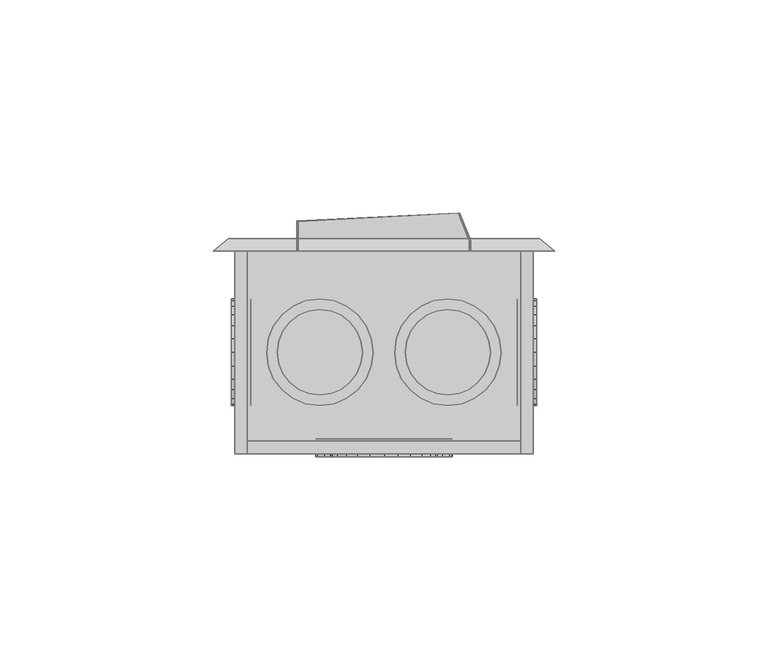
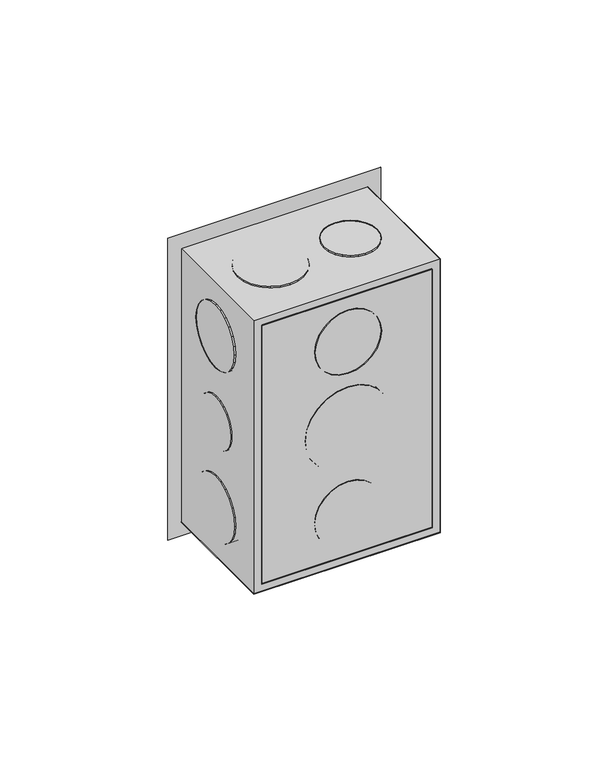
"""IFC4 building model written with IfcOpenShell, lengths in millimetres: proxy geometry,  210509 :  210509."""

from ifc_helpers import new_model, si_unit, origin, place, context, project, spatial, triangles, source, transform, mapped, element, save


def generic_models_14680dae(model_context):
    return source(origin(), model_context, "Body", "Tessellation", [
        triangles([(25216.400354, 15395.8997864, 1254.3000378), (25219.4001709, 15395.8997864, 1148.7000154), (25216.400354, 15395.8997864, 1145.6999805), (25219.4001709, 15395.8997864, 1251.2999302), (25286.4007324, 15395.8997864, 1254.3000378), (25283.4009155, 15395.8997864, 1251.2999302), (25286.4007324, 15395.8997864, 1145.6999805), (25283.4009155, 15395.8997864, 1148.7000154), (25219.4001709, 15348.4003601, 1251.2999302), (25219.4001709, 15348.4003601, 1148.7000154), (25286.4007324, 15348.4003601, 1254.3000378), (25286.4007324, 15348.4003601, 1145.6999805), (25283.4009155, 15348.4003601, 1251.2999302), (25216.400354, 15348.4003601, 1145.6999805), (25283.4009155, 15348.4003601, 1148.7000154), (25216.400354, 15348.4003601, 1254.3000378), (25219.4001709, 15351.400177, 1251.2999302), (25283.4009155, 15351.400177, 1148.7000154), (25219.4001709, 15351.400177, 1148.7000154), (25283.4009155, 15351.400177, 1251.2999302), (25243.4010315, 15347.7004028, 1186.0999855), (25237.4990662, 15347.7004028, 1191.9999887), (25240.0989075, 15347.7004028, 1188.6999722), (25247.2007996, 15347.7004028, 1184.5000105), (25235.8991638, 15347.7004028, 1195.8999687), (25251.4005432, 15347.7004028, 1183.9999683), (25235.3991943, 15347.7004028, 1200.0000092), (25255.500293, 15347.7004028, 1184.5000105), (25235.8991638, 15347.7004028, 1204.0999769), (25259.4000549, 15347.7004028, 1186.0999855), (25237.4990662, 15347.7004028, 1208.0000296), (25262.6998535, 15347.7004028, 1188.6999722), (25240.0989075, 15347.7004028, 1211.2999735), (25265.1997009, 15347.7004028, 1191.9999887), (25243.4010315, 15347.7004028, 1213.9000328), (25266.7996033, 15347.7004028, 1195.8999687), (25247.2007996, 15347.7004028, 1215.5000078), (25267.3995667, 15347.7004028, 1200.0000092), (25251.4005432, 15347.7004028, 1215.9999773), (25266.7996033, 15347.7004028, 1204.0999769), (25255.500293, 15347.7004028, 1215.5000078), (25265.1997009, 15347.7004028, 1208.0000296), (25259.4000549, 15347.7004028, 1213.9000328), (25262.6998535, 15347.7004028, 1211.2999735), (25247.2007996, 15351.9001465, 1215.5000078), (25251.4005432, 15351.9001465, 1215.9999773), (25243.4010315, 15351.9001465, 1213.9000328), (25240.0989075, 15351.9001465, 1211.2999735), (25237.4990662, 15351.9001465, 1208.0000296), (25235.8991638, 15351.9001465, 1204.0999769), (25235.3991943, 15351.9001465, 1200.0000092), (25235.8991638, 15351.9001465, 1195.8999687), (25237.4990662, 15351.9001465, 1191.9999887), (25240.0989075, 15351.9001465, 1188.6999722), (25243.4010315, 15351.9001465, 1186.0999855), (25247.2007996, 15351.9001465, 1184.5000105), (25251.4005432, 15351.9001465, 1183.9999683), (25255.500293, 15351.9001465, 1184.5000105), (25259.4000549, 15351.9001465, 1186.0999855), (25262.6998535, 15351.9001465, 1188.6999722), (25265.1997009, 15351.9001465, 1191.9999887), (25266.7996033, 15351.9001465, 1195.8999687), (25267.3995667, 15351.9001465, 1200.0000092), (25266.7996033, 15351.9001465, 1204.0999769), (25265.1997009, 15351.9001465, 1208.0000296), (25262.6998535, 15351.9001465, 1211.2999735), (25259.4000549, 15351.9001465, 1213.9000328), (25255.500293, 15351.9001465, 1215.5000078), (25240.4988831, 15351.9001465, 1227.8000565), (25245.1009277, 15351.9001465, 1223.2000465), (25242.5010864, 15351.9001465, 1225.2000698), (25239.2989563, 15351.9001465, 1230.8000187), (25248.1007446, 15351.9001465, 1221.8999805), (25238.8989807, 15351.9001465, 1233.9999687), (25251.4005432, 15351.9001465, 1221.500005), (25239.2989563, 15351.9001465, 1237.2000641), (25254.6003479, 15351.9001465, 1221.8999805), (25240.4988831, 15351.9001465, 1240.3000202), (25257.6001648, 15351.9001465, 1223.2000465), (25242.5010864, 15351.9001465, 1242.800013), (25260.2000061, 15351.9001465, 1225.2000698), (25262.199884, 15351.9001465, 1227.8000565), (25245.1009277, 15351.9001465, 1244.8000362), (25248.1007446, 15351.9001465, 1246.0999569), (25263.3998108, 15351.9001465, 1230.8000187), (25251.4005432, 15351.9001465, 1246.4999325), (25263.8997803, 15351.9001465, 1233.9999687), (25254.6003479, 15351.9001465, 1246.0999569), (25263.3998108, 15351.9001465, 1237.2000641), (25262.199884, 15351.9001465, 1240.3000202), (25257.6001648, 15351.9001465, 1244.8000362), (25260.2000061, 15351.9001465, 1242.800013), (25263.3998108, 15347.7004028, 1230.8000187), (25262.199884, 15347.7004028, 1227.8000565), (25260.2000061, 15347.7004028, 1225.2000698), (25257.6001648, 15347.7004028, 1223.2000465), (25254.6003479, 15347.7004028, 1221.8999805), (25251.4005432, 15347.7004028, 1221.500005), (25248.1007446, 15347.7004028, 1221.8999805), (25245.1009277, 15347.7004028, 1223.2000465), (25242.5010864, 15347.7004028, 1225.2000698), (25240.4988831, 15347.7004028, 1227.8000565), (25239.2989563, 15347.7004028, 1230.8000187), (25238.8989807, 15347.7004028, 1233.9999687), (25239.2989563, 15347.7004028, 1237.2000641), (25240.4988831, 15347.7004028, 1240.3000202), (25242.5010864, 15347.7004028, 1242.800013), (25245.1009277, 15347.7004028, 1244.8000362), (25248.1007446, 15347.7004028, 1246.0999569), (25251.4005432, 15347.7004028, 1246.4999325), (25254.6003479, 15347.7004028, 1246.0999569), (25257.6001648, 15347.7004028, 1244.8000362), (25260.2000061, 15347.7004028, 1242.800013), (25262.199884, 15347.7004028, 1240.3000202), (25263.3998108, 15347.7004028, 1237.2000641), (25263.8997803, 15347.7004028, 1233.9999687), (25245.1009277, 15347.7004028, 1155.1999821), (25240.4988831, 15347.7004028, 1159.6999981), (25242.5010864, 15347.7004028, 1157.2000053), (25248.1007446, 15347.7004028, 1153.8999887), (25239.2989563, 15347.7004028, 1162.8000269), (25251.4005432, 15347.7004028, 1153.5000132), (25238.8989807, 15347.7004028, 1165.9999769), (25254.6003479, 15347.7004028, 1153.8999887), (25239.2989563, 15347.7004028, 1169.1999996), (25257.6001648, 15347.7004028, 1155.1999821), (25240.4988831, 15347.7004028, 1172.2000345), (25260.2000061, 15347.7004028, 1157.2000053), (25242.5010864, 15347.7004028, 1174.8000212), (25262.199884, 15347.7004028, 1159.6999981), (25245.1009277, 15347.7004028, 1176.7999718), (25263.3998108, 15347.7004028, 1162.8000269), (25248.1007446, 15347.7004028, 1178.0999651), (25251.4005432, 15347.7004028, 1178.5000134), (25263.8997803, 15347.7004028, 1165.9999769), (25263.3998108, 15347.7004028, 1169.1999996), (25254.6003479, 15347.7004028, 1178.0999651), (25262.199884, 15347.7004028, 1172.2000345), (25257.6001648, 15347.7004028, 1176.7999718), (25260.2000061, 15347.7004028, 1174.8000212), (25248.1007446, 15351.9001465, 1178.0999651), (25251.4005432, 15351.9001465, 1178.5000134), (25245.1009277, 15351.9001465, 1176.7999718), (25242.5010864, 15351.9001465, 1174.8000212), (25240.4988831, 15351.9001465, 1172.2000345), (25239.2989563, 15351.9001465, 1169.1999996), (25238.8989807, 15351.9001465, 1165.9999769), (25239.2989563, 15351.9001465, 1162.8000269), (25240.4988831, 15351.9001465, 1159.6999981), (25242.5010864, 15351.9001465, 1157.2000053), (25245.1009277, 15351.9001465, 1155.1999821), (25248.1007446, 15351.9001465, 1153.8999887), (25251.4005432, 15351.9001465, 1153.5000132), (25254.6003479, 15351.9001465, 1153.8999887), (25257.6001648, 15351.9001465, 1155.1999821), (25260.2000061, 15351.9001465, 1157.2000053), (25262.199884, 15351.9001465, 1159.6999981), (25263.3998108, 15351.9001465, 1162.8000269), (25263.8997803, 15351.9001465, 1165.9999769), (25263.3998108, 15351.9001465, 1169.1999996), (25262.199884, 15351.9001465, 1172.2000345), (25260.2000061, 15351.9001465, 1174.8000212), (25257.6001648, 15351.9001465, 1176.7999718), (25254.6003479, 15351.9001465, 1178.0999651), (25215.6004028, 15363.4994385, 1195.0000237), (25215.6004028, 15367.2003754, 1191.3000315), (25215.6004028, 15365.1005035, 1192.9000065), (25215.6004028, 15362.4994995, 1197.4000225), (25215.6004028, 15369.6002289, 1190.3000198), (25215.6004028, 15362.1995178, 1200.0000092), (25215.6004028, 15372.2000702, 1189.9999655), (25215.6004028, 15362.4994995, 1202.5999958), (25215.6004028, 15374.7999115, 1190.3000198), (25215.6004028, 15363.4994385, 1204.9999947), (25215.6004028, 15377.199765, 1191.3000315), (25215.6004028, 15365.1005035, 1207.1000118), (25215.6004028, 15379.2996368, 1192.9000065), (25215.6004028, 15367.2003754, 1208.6999868), (25215.6004028, 15380.8995392, 1195.0000237), (25215.6004028, 15369.6002289, 1209.6999985), (25215.6004028, 15381.8994781, 1197.4000225), (25215.6004028, 15382.1994598, 1200.0000092), (25215.6004028, 15372.2000702, 1209.9999802), (25215.6004028, 15374.7999115, 1209.6999985), (25215.6004028, 15381.8994781, 1202.5999958), (25215.6004028, 15377.199765, 1208.6999868), (25215.6004028, 15380.8995392, 1204.9999947), (25215.6004028, 15379.2996368, 1207.1000118), (25220.2001221, 15369.6002289, 1209.6999985), (25220.2001221, 15372.2000702, 1209.9999802), (25220.2001221, 15374.7999115, 1209.6999985), (25220.2001221, 15377.199765, 1208.6999868), (25220.2001221, 15379.2996368, 1207.1000118), (25220.2001221, 15380.8995392, 1204.9999947), (25220.2001221, 15381.8994781, 1202.5999958), (25220.2001221, 15382.1994598, 1200.0000092), (25220.2001221, 15381.8994781, 1197.4000225), (25220.2001221, 15380.8995392, 1195.0000237), (25220.2001221, 15379.2996368, 1192.9000065), (25220.2001221, 15377.199765, 1191.3000315), (25220.2001221, 15374.7999115, 1190.3000198), (25220.2001221, 15372.2000702, 1189.9999655), (25220.2001221, 15369.6002289, 1190.3000198), (25220.2001221, 15367.2003754, 1191.3000315), (25220.2001221, 15365.1005035, 1192.9000065), (25220.2001221, 15363.4994385, 1195.0000237), (25220.2001221, 15362.4994995, 1197.4000225), (25220.2001221, 15362.1995178, 1200.0000092), (25220.2001221, 15362.4994995, 1202.5999958), (25220.2001221, 15363.4994385, 1204.9999947), (25220.2001221, 15365.1005035, 1207.1000118), (25220.2001221, 15367.2003754, 1208.6999868), (25220.2001221, 15365.9004547, 1223.2000465), (25220.2001221, 15361.3995667, 1227.8000565), (25220.2001221, 15363.3994446, 1225.2000698), (25220.2001221, 15369.0002655, 1221.8999805), (25220.2001221, 15360.099646, 1230.8000187), (25220.2001221, 15359.6996704, 1233.9999687), (25220.2001221, 15372.2000702, 1221.500005), (25220.2001221, 15375.3998749, 1221.8999805), (25220.2001221, 15360.099646, 1237.2000641), (25220.2001221, 15361.3995667, 1240.3000202), (25220.2001221, 15378.3996918, 1223.2000465), (25220.2001221, 15380.9995331, 1225.2000698), (25220.2001221, 15363.3994446, 1242.800013), (25220.2001221, 15383.0005737, 1227.8000565), (25220.2001221, 15365.9004547, 1244.8000362), (25220.2001221, 15384.3004944, 1230.8000187), (25220.2001221, 15369.0002655, 1246.0999569), (25220.2001221, 15384.70047, 1233.9999687), (25220.2001221, 15372.2000702, 1246.4999325), (25220.2001221, 15384.3004944, 1237.2000641), (25220.2001221, 15375.3998749, 1246.0999569), (25220.2001221, 15383.0005737, 1240.3000202), (25220.2001221, 15378.3996918, 1244.8000362), (25220.2001221, 15380.9995331, 1242.800013), (25215.6004028, 15372.2000702, 1221.500005), (25215.6004028, 15369.0002655, 1221.8999805), (25215.6004028, 15375.3998749, 1221.8999805), (25215.6004028, 15378.3996918, 1223.2000465), (25215.6004028, 15380.9995331, 1225.2000698), (25215.6004028, 15383.0005737, 1227.8000565), (25215.6004028, 15384.3004944, 1230.8000187), (25215.6004028, 15384.70047, 1233.9999687), (25215.6004028, 15384.3004944, 1237.2000641), (25215.6004028, 15383.0005737, 1240.3000202), (25215.6004028, 15380.9995331, 1242.800013), (25215.6004028, 15378.3996918, 1244.8000362), (25215.6004028, 15375.3998749, 1246.0999569), (25215.6004028, 15372.2000702, 1246.4999325), (25215.6004028, 15369.0002655, 1246.0999569), (25215.6004028, 15365.9004547, 1244.8000362), (25215.6004028, 15363.3994446, 1242.800013), (25215.6004028, 15361.3995667, 1240.3000202), (25215.6004028, 15360.099646, 1237.2000641), (25215.6004028, 15359.6996704, 1233.9999687), (25215.6004028, 15360.099646, 1230.8000187), (25215.6004028, 15361.3995667, 1227.8000565), (25215.6004028, 15363.3994446, 1225.2000698), (25215.6004028, 15365.9004547, 1223.2000465), (25215.6004028, 15361.3995667, 1159.6999981), (25215.6004028, 15365.9004547, 1155.1999821), (25215.6004028, 15363.3994446, 1157.2000053), (25215.6004028, 15360.099646, 1162.8000269), (25215.6004028, 15369.0002655, 1153.8999887), (25215.6004028, 15359.6996704, 1165.9999769), (25215.6004028, 15372.2000702, 1153.5000132), (25215.6004028, 15360.099646, 1169.1999996), (25215.6004028, 15375.3998749, 1153.8999887), (25215.6004028, 15361.3995667, 1172.2000345), (25215.6004028, 15378.3996918, 1155.1999821), (25215.6004028, 15363.3994446, 1174.8000212), (25215.6004028, 15380.9995331, 1157.2000053), (25215.6004028, 15365.9004547, 1176.7999718), (25215.6004028, 15383.0005737, 1159.6999981), (25215.6004028, 15369.0002655, 1178.0999651), (25215.6004028, 15384.3004944, 1162.8000269), (25215.6004028, 15372.2000702, 1178.5000134), (25215.6004028, 15384.70047, 1165.9999769), (25215.6004028, 15375.3998749, 1178.0999651), (25215.6004028, 15384.3004944, 1169.1999996), (25215.6004028, 15378.3996918, 1176.7999718), (25215.6004028, 15383.0005737, 1172.2000345), (25215.6004028, 15380.9995331, 1174.8000212), (25220.2001221, 15369.0002655, 1178.0999651), (25220.2001221, 15372.2000702, 1178.5000134), (25220.2001221, 15375.3998749, 1178.0999651), (25220.2001221, 15378.3996918, 1176.7999718), (25220.2001221, 15380.9995331, 1174.8000212), (25220.2001221, 15383.0005737, 1172.2000345), (25220.2001221, 15384.3004944, 1169.1999996), (25220.2001221, 15384.70047, 1165.9999769), (25220.2001221, 15384.3004944, 1162.8000269), (25220.2001221, 15383.0005737, 1159.6999981), (25220.2001221, 15380.9995331, 1157.2000053), (25220.2001221, 15378.3996918, 1155.1999821), (25220.2001221, 15375.3998749, 1153.8999887), (25220.2001221, 15372.2000702, 1153.5000132), (25220.2001221, 15369.0002655, 1153.8999887), (25220.2001221, 15365.9004547, 1155.1999821), (25220.2001221, 15363.3994446, 1157.2000053), (25220.2001221, 15361.3995667, 1159.6999981), (25220.2001221, 15360.099646, 1162.8000269), (25220.2001221, 15359.6996704, 1165.9999769), (25220.2001221, 15360.099646, 1169.1999996), (25220.2001221, 15361.3995667, 1172.2000345), (25220.2001221, 15363.3994446, 1174.8000212), (25220.2001221, 15365.9004547, 1176.7999718), (25287.2006836, 15367.2003754, 1191.3000315), (25287.2006836, 15363.4994385, 1195.0000237), (25287.2006836, 15365.1005035, 1192.9000065), (25287.2006836, 15362.4994995, 1197.4000225), (25287.2006836, 15369.6002289, 1190.3000198), (25287.2006836, 15362.1995178, 1200.0000092), (25287.2006836, 15372.2000702, 1189.9999655), (25287.2006836, 15374.7999115, 1190.3000198), (25287.2006836, 15362.4994995, 1202.5999958), (25287.2006836, 15363.4994385, 1204.9999947), (25287.2006836, 15377.199765, 1191.3000315), (25287.2006836, 15365.1005035, 1207.1000118), (25287.2006836, 15379.2996368, 1192.9000065), (25287.2006836, 15380.8995392, 1195.0000237), (25287.2006836, 15367.2003754, 1208.6999868), (25287.2006836, 15381.8994781, 1197.4000225), (25287.2006836, 15369.6002289, 1209.6999985), (25287.2006836, 15382.1994598, 1200.0000092), (25287.2006836, 15372.2000702, 1209.9999802), (25287.2006836, 15381.8994781, 1202.5999958), (25287.2006836, 15374.7999115, 1209.6999985), (25287.2006836, 15377.199765, 1208.6999868), (25287.2006836, 15380.8995392, 1204.9999947), (25287.2006836, 15379.2996368, 1207.1000118), (25282.6009644, 15369.6002289, 1190.3000198), (25282.6009644, 15367.2003754, 1191.3000315), (25282.6009644, 15372.2000702, 1189.9999655), (25282.6009644, 15374.7999115, 1190.3000198), (25282.6009644, 15377.199765, 1191.3000315), (25282.6009644, 15379.2996368, 1192.9000065), (25282.6009644, 15380.8995392, 1195.0000237), (25282.6009644, 15381.8994781, 1197.4000225), (25282.6009644, 15382.1994598, 1200.0000092), (25282.6009644, 15381.8994781, 1202.5999958), (25282.6009644, 15380.8995392, 1204.9999947), (25282.6009644, 15379.2996368, 1207.1000118), (25282.6009644, 15377.199765, 1208.6999868), (25282.6009644, 15374.7999115, 1209.6999985), (25282.6009644, 15372.2000702, 1209.9999802), (25282.6009644, 15369.6002289, 1209.6999985), (25282.6009644, 15367.2003754, 1208.6999868), (25282.6009644, 15365.1005035, 1207.1000118), (25282.6009644, 15363.4994385, 1204.9999947), (25282.6009644, 15362.4994995, 1202.5999958), (25282.6009644, 15362.1995178, 1200.0000092), (25282.6009644, 15362.4994995, 1197.4000225), (25282.6009644, 15363.4994385, 1195.0000237), (25282.6009644, 15365.1005035, 1192.9000065), (25282.6009644, 15361.3995667, 1159.6999981), (25282.6009644, 15365.9004547, 1155.1999821), (25282.6009644, 15363.3994446, 1157.2000053), (25282.6009644, 15360.099646, 1162.8000269), (25282.6009644, 15369.0002655, 1153.8999887), (25282.6009644, 15359.6996704, 1165.9999769), (25282.6009644, 15372.2000702, 1153.5000132), (25282.6009644, 15360.099646, 1169.1999996), (25282.6009644, 15375.3998749, 1153.8999887), (25282.6009644, 15361.3995667, 1172.2000345), (25282.6009644, 15378.3996918, 1155.1999821), (25282.6009644, 15363.3994446, 1174.8000212), (25282.6009644, 15380.9995331, 1157.2000053), (25282.6009644, 15365.9004547, 1176.7999718), (25282.6009644, 15383.0005737, 1159.6999981), (25282.6009644, 15369.0002655, 1178.0999651), (25282.6009644, 15384.3004944, 1162.8000269), (25282.6009644, 15372.2000702, 1178.5000134), (25282.6009644, 15384.70047, 1165.9999769), (25282.6009644, 15375.3998749, 1178.0999651), (25282.6009644, 15384.3004944, 1169.1999996), (25282.6009644, 15378.3996918, 1176.7999718), (25282.6009644, 15383.0005737, 1172.2000345), (25282.6009644, 15380.9995331, 1174.8000212), (25287.2006836, 15369.0002655, 1178.0999651), (25287.2006836, 15372.2000702, 1178.5000134), (25287.2006836, 15375.3998749, 1178.0999651), (25287.2006836, 15378.3996918, 1176.7999718), (25287.2006836, 15380.9995331, 1174.8000212), (25287.2006836, 15383.0005737, 1172.2000345), (25287.2006836, 15384.3004944, 1169.1999996), (25287.2006836, 15384.70047, 1165.9999769), (25287.2006836, 15384.3004944, 1162.8000269), (25287.2006836, 15383.0005737, 1159.6999981), (25287.2006836, 15380.9995331, 1157.2000053), (25287.2006836, 15378.3996918, 1155.1999821), (25287.2006836, 15375.3998749, 1153.8999887), (25287.2006836, 15372.2000702, 1153.5000132), (25287.2006836, 15369.0002655, 1153.8999887), (25287.2006836, 15365.9004547, 1155.1999821), (25287.2006836, 15363.3994446, 1157.2000053), (25287.2006836, 15361.3995667, 1159.6999981), (25287.2006836, 15360.099646, 1162.8000269), (25287.2006836, 15359.6996704, 1165.9999769), (25287.2006836, 15360.099646, 1169.1999996), (25287.2006836, 15361.3995667, 1172.2000345), (25287.2006836, 15363.3994446, 1174.8000212), (25287.2006836, 15365.9004547, 1176.7999718), (25287.2006836, 15365.9004547, 1223.2000465), (25287.2006836, 15361.3995667, 1227.8000565), (25287.2006836, 15363.3994446, 1225.2000698), (25287.2006836, 15369.0002655, 1221.8999805), (25287.2006836, 15360.099646, 1230.8000187), (25287.2006836, 15359.6996704, 1233.9999687), (25287.2006836, 15372.2000702, 1221.500005), (25287.2006836, 15375.3998749, 1221.8999805), (25287.2006836, 15360.099646, 1237.2000641), (25287.2006836, 15361.3995667, 1240.3000202), (25287.2006836, 15378.3996918, 1223.2000465), (25287.2006836, 15380.9995331, 1225.2000698), (25287.2006836, 15363.3994446, 1242.800013), (25287.2006836, 15383.0005737, 1227.8000565), (25287.2006836, 15365.9004547, 1244.8000362), (25287.2006836, 15384.3004944, 1230.8000187), (25287.2006836, 15369.0002655, 1246.0999569), (25287.2006836, 15384.70047, 1233.9999687), (25287.2006836, 15372.2000702, 1246.4999325), (25287.2006836, 15384.3004944, 1237.2000641), (25287.2006836, 15375.3998749, 1246.0999569), (25287.2006836, 15383.0005737, 1240.3000202), (25287.2006836, 15378.3996918, 1244.8000362), (25287.2006836, 15380.9995331, 1242.800013), (25282.6009644, 15372.2000702, 1221.500005), (25282.6009644, 15369.0002655, 1221.8999805), (25282.6009644, 15375.3998749, 1221.8999805), (25282.6009644, 15378.3996918, 1223.2000465), (25282.6009644, 15380.9995331, 1225.2000698), (25282.6009644, 15383.0005737, 1227.8000565), (25282.6009644, 15384.3004944, 1230.8000187), (25282.6009644, 15384.70047, 1233.9999687), (25282.6009644, 15384.3004944, 1237.2000641), (25282.6009644, 15383.0005737, 1240.3000202), (25282.6009644, 15380.9995331, 1242.800013), (25282.6009644, 15378.3996918, 1244.8000362), (25282.6009644, 15375.3998749, 1246.0999569), (25282.6009644, 15372.2000702, 1246.4999325), (25282.6009644, 15369.0002655, 1246.0999569), (25282.6009644, 15365.9004547, 1244.8000362), (25282.6009644, 15363.3994446, 1242.800013), (25282.6009644, 15361.3995667, 1240.3000202), (25282.6009644, 15360.099646, 1237.2000641), (25282.6009644, 15359.6996704, 1233.9999687), (25282.6009644, 15360.099646, 1230.8000187), (25282.6009644, 15361.3995667, 1227.8000565), (25282.6009644, 15363.3994446, 1225.2000698), (25282.6009644, 15365.9004547, 1223.2000465), (25230.0995178, 15361.3995667, 1255.1999828), (25225.4997986, 15365.9004547, 1255.1999828), (25227.4996765, 15363.3994446, 1255.1999828), (25224.2998718, 15369.0002655, 1255.1999828), (25233.0993347, 15360.099646, 1255.1999828), (25236.3991333, 15359.6996704, 1255.1999828), (25223.8998962, 15372.2000702, 1255.1999828), (25224.2998718, 15375.3998749, 1255.1999828), (25239.598938, 15360.099646, 1255.1999828), (25242.6010803, 15361.3995667, 1255.1999828), (25225.4997986, 15378.3996918, 1255.1999828), (25227.4996765, 15380.9995331, 1255.1999828), (25245.2009216, 15363.3994446, 1255.1999828), (25247.2007996, 15365.9004547, 1255.1999828), (25230.0995178, 15383.0005737, 1255.1999828), (25233.0993347, 15384.3004944, 1255.1999828), (25248.4007263, 15369.0002655, 1255.1999828), (25236.3991333, 15384.70047, 1255.1999828), (25248.9006958, 15372.2000702, 1255.1999828), (25239.598938, 15384.3004944, 1255.1999828), (25248.4007263, 15375.3998749, 1255.1999828), (25247.2007996, 15378.3996918, 1255.1999828), (25242.6010803, 15383.0005737, 1255.1999828), (25245.2009216, 15380.9995331, 1255.1999828), (25236.3991333, 15384.70047, 1250.9999485), (25233.0993347, 15384.3004944, 1250.9999485), (25230.0995178, 15383.0005737, 1250.9999485), (25227.4996765, 15380.9995331, 1250.9999485), (25225.4997986, 15378.3996918, 1250.9999485), (25224.2998718, 15375.3998749, 1250.9999485), (25223.8998962, 15372.2000702, 1250.9999485), (25224.2998718, 15369.0002655, 1250.9999485), (25225.4997986, 15365.9004547, 1250.9999485), (25227.4996765, 15363.3994446, 1250.9999485), (25230.0995178, 15361.3995667, 1250.9999485), (25233.0993347, 15360.099646, 1250.9999485), (25236.3991333, 15359.6996704, 1250.9999485), (25239.598938, 15360.099646, 1250.9999485), (25242.6010803, 15361.3995667, 1250.9999485), (25245.2009216, 15363.3994446, 1250.9999485), (25247.2007996, 15365.9004547, 1250.9999485), (25248.4007263, 15369.0002655, 1250.9999485), (25248.9006958, 15372.2000702, 1250.9999485), (25248.4007263, 15375.3998749, 1250.9999485), (25247.2007996, 15378.3996918, 1250.9999485), (25245.2009216, 15380.9995331, 1250.9999485), (25242.6010803, 15383.0005737, 1250.9999485), (25239.598938, 15384.3004944, 1250.9999485), (25257.7001587, 15367.2003754, 1250.9999485), (25261.3999329, 15363.4994385, 1250.9999485), (25259.300061, 15365.1005035, 1250.9999485), (25263.7997864, 15362.4994995, 1250.9999485), (25256.7002197, 15369.6002289, 1250.9999485), (25266.3996277, 15362.1995178, 1250.9999485), (25256.400238, 15372.2000702, 1250.9999485), (25256.7002197, 15374.7999115, 1250.9999485), (25268.999469, 15362.4994995, 1250.9999485), (25271.3993225, 15363.4994385, 1250.9999485), (25257.7001587, 15377.199765, 1250.9999485), (25273.3992004, 15365.1005035, 1250.9999485), (25259.300061, 15379.2996368, 1250.9999485), (25261.3999329, 15380.8995392, 1250.9999485), (25274.9991028, 15367.2003754, 1250.9999485), (25275.9990417, 15369.6002289, 1250.9999485), (25263.7997864, 15381.8994781, 1250.9999485), (25266.3996277, 15382.1994598, 1250.9999485), (25276.3990173, 15372.2000702, 1250.9999485), (25268.999469, 15381.8994781, 1250.9999485), (25275.9990417, 15374.7999115, 1250.9999485), (25271.3993225, 15380.8995392, 1250.9999485), (25274.9991028, 15377.199765, 1250.9999485), (25273.3992004, 15379.2996368, 1250.9999485), (25268.999469, 15362.4994995, 1255.1999828), (25271.3993225, 15363.4994385, 1255.1999828), (25266.3996277, 15362.1995178, 1255.1999828), (25263.7997864, 15362.4994995, 1255.1999828), (25261.3999329, 15363.4994385, 1255.1999828), (25259.300061, 15365.1005035, 1255.1999828), (25257.7001587, 15367.2003754, 1255.1999828), (25256.7002197, 15369.6002289, 1255.1999828), (25256.400238, 15372.2000702, 1255.1999828), (25256.7002197, 15374.7999115, 1255.1999828), (25257.7001587, 15377.199765, 1255.1999828), (25259.300061, 15379.2996368, 1255.1999828), (25261.3999329, 15380.8995392, 1255.1999828), (25263.7997864, 15381.8994781, 1255.1999828), (25266.3996277, 15382.1994598, 1255.1999828), (25268.999469, 15381.8994781, 1255.1999828), (25271.3993225, 15380.8995392, 1255.1999828), (25273.3992004, 15379.2996368, 1255.1999828), (25274.9991028, 15377.199765, 1255.1999828), (25275.9990417, 15374.7999115, 1255.1999828), (25276.3990173, 15372.2000702, 1255.1999828), (25275.9990417, 15369.6002289, 1255.1999828), (25274.9991028, 15367.2003754, 1255.1999828), (25273.3992004, 15365.1005035, 1255.1999828), (25227.6996643, 15367.2003754, 1144.8000355), (25231.3994385, 15363.4994385, 1144.8000355), (25229.2995667, 15365.1005035, 1144.8000355), (25233.799292, 15362.4994995, 1144.8000355), (25226.6997253, 15369.6002289, 1144.8000355), (25236.3991333, 15362.1995178, 1144.8000355), (25226.3997437, 15372.2000702, 1144.8000355), (25226.6997253, 15374.7999115, 1144.8000355), (25238.9989746, 15362.4994995, 1144.8000355), (25241.4011536, 15363.4994385, 1144.8000355), (25227.6996643, 15377.199765, 1144.8000355), (25243.4010315, 15365.1005035, 1144.8000355), (25229.2995667, 15379.2996368, 1144.8000355), (25231.3994385, 15380.8995392, 1144.8000355), (25245.0009338, 15367.2003754, 1144.8000355), (25246.0008728, 15369.6002289, 1144.8000355), (25233.799292, 15381.8994781, 1144.8000355), (25236.3991333, 15382.1994598, 1144.8000355), (25246.4008484, 15372.2000702, 1144.8000355), (25238.9989746, 15381.8994781, 1144.8000355), (25246.0008728, 15374.7999115, 1144.8000355), (25241.4011536, 15380.8995392, 1144.8000355), (25245.0009338, 15377.199765, 1144.8000355), (25243.4010315, 15379.2996368, 1144.8000355), (25233.799292, 15362.4994995, 1149.099991), (25236.3991333, 15362.1995178, 1149.099991), (25231.3994385, 15363.4994385, 1149.099991), (25229.2995667, 15365.1005035, 1149.099991), (25227.6996643, 15367.2003754, 1149.099991), (25226.6997253, 15369.6002289, 1149.099991), (25226.3997437, 15372.2000702, 1149.099991), (25226.6997253, 15374.7999115, 1149.099991), (25227.6996643, 15377.199765, 1149.099991), (25229.2995667, 15379.2996368, 1149.099991), (25231.3994385, 15380.8995392, 1149.099991), (25233.799292, 15381.8994781, 1149.099991), (25236.3991333, 15382.1994598, 1149.099991), (25238.9989746, 15381.8994781, 1149.099991), (25241.4011536, 15380.8995392, 1149.099991), (25243.4010315, 15379.2996368, 1149.099991), (25245.0009338, 15377.199765, 1149.099991), (25246.0008728, 15374.7999115, 1149.099991), (25246.4008484, 15372.2000702, 1149.099991), (25246.0008728, 15369.6002289, 1149.099991), (25245.0009338, 15367.2003754, 1149.099991), (25243.4010315, 15365.1005035, 1149.099991), (25241.4011536, 15363.4994385, 1149.099991), (25238.9989746, 15362.4994995, 1149.099991), (25255.500293, 15365.9004547, 1144.8000355), (25260.1000122, 15361.3995667, 1144.8000355), (25257.5001709, 15363.3994446, 1144.8000355), (25254.3003662, 15369.0002655, 1144.8000355), (25263.0998291, 15360.099646, 1144.8000355), (25266.3996277, 15359.6996704, 1144.8000355), (25253.9003906, 15372.2000702, 1144.8000355), (25254.3003662, 15375.3998749, 1144.8000355), (25269.5994324, 15360.099646, 1144.8000355), (25272.5992493, 15361.3995667, 1144.8000355), (25255.500293, 15378.3996918, 1144.8000355), (25257.5001709, 15380.9995331, 1144.8000355), (25275.1990906, 15363.3994446, 1144.8000355), (25277.1989685, 15365.9004547, 1144.8000355), (25260.1000122, 15383.0005737, 1144.8000355), (25263.0998291, 15384.3004944, 1144.8000355), (25278.3988953, 15369.0002655, 1144.8000355), (25266.3996277, 15384.70047, 1144.8000355), (25278.8988647, 15372.2000702, 1144.8000355), (25269.5994324, 15384.3004944, 1144.8000355), (25278.3988953, 15375.3998749, 1144.8000355), (25277.1989685, 15378.3996918, 1144.8000355), (25272.5992493, 15383.0005737, 1144.8000355), (25275.1990906, 15380.9995331, 1144.8000355), (25269.5994324, 15360.099646, 1149.099991), (25272.5992493, 15361.3995667, 1149.099991), (25266.3996277, 15359.6996704, 1149.099991), (25263.0998291, 15360.099646, 1149.099991), (25260.1000122, 15361.3995667, 1149.099991), (25257.5001709, 15363.3994446, 1149.099991), (25255.500293, 15365.9004547, 1149.099991), (25254.3003662, 15369.0002655, 1149.099991), (25253.9003906, 15372.2000702, 1149.099991), (25254.3003662, 15375.3998749, 1149.099991), (25255.500293, 15378.3996918, 1149.099991), (25257.5001709, 15380.9995331, 1149.099991), (25260.1000122, 15383.0005737, 1149.099991), (25263.0998291, 15384.3004944, 1149.099991), (25266.3996277, 15384.70047, 1149.099991), (25269.5994324, 15384.3004944, 1149.099991), (25272.5992493, 15383.0005737, 1149.099991), (25275.1990906, 15380.9995331, 1149.099991), (25277.1989685, 15378.3996918, 1149.099991), (25278.3988953, 15375.3998749, 1149.099991), (25278.8988647, 15372.2000702, 1149.099991), (25278.3988953, 15369.0002655, 1149.099991), (25277.1989685, 15365.9004547, 1149.099991), (25275.1990906, 15363.3994446, 1149.099991), (25291.4004272, 15395.8997864, 1139.9999651), (25231.1994507, 15395.8997864, 1164.5999897), (25211.4006592, 15395.8997864, 1139.9999651), (25271.5993103, 15395.8997864, 1164.5999897), (25291.4004272, 15395.8997864, 1259.9999805), (25271.5993103, 15395.8997864, 1188.0000149), (25271.5993103, 15395.8997864, 1211.3999674), (25271.5993103, 15395.8997864, 1234.8000652), (25211.4006592, 15395.8997864, 1259.9999805), (25231.1994507, 15395.8997864, 1188.0000149), (25231.1994507, 15395.8997864, 1211.3999674), (25231.1994507, 15395.8997864, 1234.8000652), (25231.1994507, 15398.8996033, 1188.0000149), (25271.5993103, 15398.8996033, 1188.0000149), (25231.1994507, 15398.8996033, 1234.8000652), (25271.5993103, 15398.8996033, 1234.8000652), (25271.5993103, 15398.8996033, 1164.5999897), (25271.5993103, 15398.8996033, 1211.3999674), (25231.1994507, 15398.8996033, 1164.5999897), (25231.1994507, 15398.8996033, 1211.3999674), (25214.9004456, 15398.8996033, 1143.4999695), (25214.9004456, 15398.8996033, 1256.5000488), (25287.9006409, 15398.8996033, 1143.4999695), (25287.9006409, 15398.8996033, 1256.5000488), (25231.2994446, 15402.9005219, 1211.2999735), (25271.6993042, 15395.8997864, 1211.2999735), (25231.2994446, 15395.8997864, 1211.2999735), (25269.0994629, 15404.8004059, 1211.2999735), (25271.6993042, 15398.3996338, 1211.2999735), (25231.2994446, 15395.8997864, 1234.7000713), (25271.6993042, 15395.8997864, 1234.7000713), (25231.2994446, 15402.9005219, 1234.7000713), (25269.0994629, 15404.8004059, 1234.7000713), (25271.6993042, 15398.3996338, 1234.7000713), (25230.9994629, 15402.9005219, 1164.6999836), (25271.3993225, 15395.8997864, 1164.6999836), (25230.9994629, 15395.8997864, 1164.6999836), (25268.7994812, 15404.8004059, 1164.6999836), (25271.3993225, 15398.3996338, 1164.6999836), (25230.9994629, 15395.8997864, 1188.1000088), (25271.3993225, 15395.8997864, 1188.1000088), (25230.9994629, 15402.9005219, 1188.1000088), (25268.7994812, 15404.8004059, 1188.1000088), (25271.3993225, 15398.3996338, 1188.1000088)], [[1, 2, 3], [2, 1, 4], [5, 4, 1], [4, 5, 6], [3, 2, 7], [7, 2, 8], [7, 8, 6], [7, 6, 5], [2, 9, 10], [9, 2, 4], [7, 11, 12], [11, 7, 5], [4, 13, 9], [13, 4, 6], [3, 12, 14], [12, 3, 7], [13, 8, 15], [8, 13, 6], [16, 3, 14], [3, 16, 1], [15, 2, 10], [2, 15, 8], [11, 1, 16], [1, 11, 5], [12, 10, 14], [10, 12, 15], [11, 15, 12], [15, 11, 13], [14, 10, 16], [16, 10, 9], [16, 9, 13], [16, 13, 11], [17, 18, 19], [18, 17, 20], [18, 13, 15], [13, 18, 20], [19, 15, 10], [15, 19, 18], [9, 19, 10], [19, 9, 17], [13, 17, 9], [17, 13, 20], [15, 9, 10], [9, 15, 13], [21, 22, 23], [22, 21, 24], [25, 22, 24], [25, 24, 26], [27, 25, 26], [27, 26, 28], [29, 27, 28], [29, 28, 30], [31, 29, 30], [31, 30, 32], [31, 32, 33], [33, 32, 34], [33, 34, 35], [35, 34, 36], [35, 36, 37], [37, 36, 38], [37, 38, 39], [39, 38, 40], [39, 40, 41], [41, 40, 42], [41, 42, 43], [43, 42, 44], [39, 45, 37], [45, 39, 46], [37, 47, 35], [47, 37, 45], [35, 48, 33], [48, 35, 47], [33, 49, 31], [49, 33, 48], [31, 50, 29], [50, 31, 49], [29, 51, 27], [51, 29, 50], [27, 52, 25], [52, 27, 51], [25, 53, 22], [53, 25, 52], [22, 54, 23], [54, 22, 53], [54, 21, 23], [21, 54, 55], [55, 24, 21], [24, 55, 56], [56, 26, 24], [26, 56, 57], [57, 28, 26], [28, 57, 58], [58, 30, 28], [30, 58, 59], [59, 32, 30], [32, 59, 60], [60, 34, 32], [34, 60, 61], [61, 36, 34], [36, 61, 62], [62, 38, 36], [38, 62, 63], [63, 40, 38], [40, 63, 64], [64, 42, 40], [42, 64, 65], [65, 44, 42], [44, 65, 66], [44, 67, 43], [67, 44, 66], [43, 68, 41], [68, 43, 67], [41, 46, 39], [46, 41, 68], [53, 55, 54], [55, 53, 52], [56, 55, 52], [56, 52, 51], [57, 56, 51], [57, 51, 50], [58, 57, 50], [58, 50, 49], [59, 58, 49], [59, 49, 48], [59, 48, 60], [60, 48, 47], [60, 47, 61], [61, 47, 45], [61, 45, 62], [62, 45, 46], [62, 46, 63], [63, 46, 68], [63, 68, 64], [64, 68, 67], [64, 67, 65], [65, 67, 66], [69, 70, 71], [70, 69, 72], [73, 70, 72], [73, 72, 74], [75, 73, 74], [75, 74, 76], [77, 75, 76], [77, 76, 78], [79, 77, 78], [79, 78, 80], [81, 79, 80], [81, 80, 82], [82, 80, 83], [82, 83, 84], [82, 84, 85], [85, 84, 86], [85, 86, 87], [87, 86, 88], [87, 88, 89], [89, 88, 90], [90, 88, 91], [90, 91, 92], [82, 93, 94], [93, 82, 85], [81, 94, 95], [94, 81, 82], [79, 95, 96], [95, 79, 81], [77, 96, 97], [96, 77, 79], [75, 97, 98], [97, 75, 77], [73, 98, 99], [98, 73, 75], [70, 99, 100], [99, 70, 73], [71, 100, 101], [100, 71, 70], [102, 71, 101], [71, 102, 69], [103, 69, 102], [69, 103, 72], [104, 72, 103], [72, 104, 74], [105, 74, 104], [74, 105, 76], [106, 76, 105], [76, 106, 78], [107, 78, 106], [78, 107, 80], [108, 80, 107], [80, 108, 83], [109, 83, 108], [83, 109, 84], [110, 84, 109], [84, 110, 86], [111, 86, 110], [86, 111, 88], [112, 88, 111], [88, 112, 91], [113, 91, 112], [91, 113, 92], [90, 113, 114], [113, 90, 92], [89, 114, 115], [114, 89, 90], [87, 115, 116], [115, 87, 89], [85, 116, 93], [116, 85, 87], [100, 102, 101], [102, 100, 99], [103, 102, 99], [103, 99, 98], [104, 103, 98], [104, 98, 97], [105, 104, 97], [106, 105, 97], [106, 97, 96], [106, 96, 95], [106, 95, 107], [107, 95, 94], [107, 94, 108], [108, 94, 93], [108, 93, 109], [109, 93, 116], [109, 116, 110], [110, 116, 115], [110, 115, 111], [111, 115, 114], [111, 114, 112], [112, 114, 113], [117, 118, 119], [118, 117, 120], [121, 118, 120], [121, 120, 122], [123, 121, 122], [123, 122, 124], [125, 123, 124], [125, 124, 126], [127, 125, 126], [127, 126, 128], [127, 128, 129], [129, 128, 130], [129, 130, 131], [131, 130, 132], [131, 132, 133], [133, 132, 134], [134, 132, 135], [134, 135, 136], [134, 136, 137], [137, 136, 138], [137, 138, 139], [139, 138, 140], [134, 141, 133], [141, 134, 142], [133, 143, 131], [143, 133, 141], [131, 144, 129], [144, 131, 143], [129, 145, 127], [145, 129, 144], [127, 146, 125], [146, 127, 145], [125, 147, 123], [147, 125, 146], [123, 148, 121], [148, 123, 147], [121, 149, 118], [149, 121, 148], [118, 150, 119], [150, 118, 149], [150, 117, 119], [117, 150, 151], [151, 120, 117], [120, 151, 152], [152, 122, 120], [122, 152, 153], [153, 124, 122], [124, 153, 154], [154, 126, 124], [126, 154, 155], [155, 128, 126], [128, 155, 156], [156, 130, 128], [130, 156, 157], [157, 132, 130], [132, 157, 158], [158, 135, 132], [135, 158, 159], [159, 136, 135], [136, 159, 160], [160, 138, 136], [138, 160, 161], [161, 140, 138], [140, 161, 162], [140, 163, 139], [163, 140, 162], [139, 164, 137], [164, 139, 163], [137, 142, 134], [142, 137, 164], [149, 151, 150], [151, 149, 148], [152, 151, 148], [153, 152, 148], [153, 148, 147], [153, 147, 146], [154, 153, 146], [154, 146, 145], [155, 154, 145], [155, 145, 144], [156, 155, 144], [156, 144, 157], [157, 144, 143], [157, 143, 141], [157, 141, 158], [158, 141, 142], [158, 142, 159], [159, 142, 164], [159, 164, 160], [160, 164, 163], [160, 163, 161], [161, 163, 162], [165, 166, 167], [166, 165, 168], [169, 166, 168], [169, 168, 170], [171, 169, 170], [171, 170, 172], [173, 171, 172], [173, 172, 174], [175, 173, 174], [175, 174, 176], [177, 175, 176], [177, 176, 178], [177, 178, 179], [179, 178, 180], [179, 180, 181], [181, 180, 182], [182, 180, 183], [182, 183, 184], [182, 184, 185], [185, 184, 186], [185, 186, 187], [187, 186, 188], [189, 183, 180], [183, 189, 190], [190, 184, 183], [184, 190, 191], [191, 186, 184], [186, 191, 192], [192, 188, 186], [188, 192, 193], [188, 194, 187], [194, 188, 193], [187, 195, 185], [195, 187, 194], [185, 196, 182], [196, 185, 195], [182, 197, 181], [197, 182, 196], [181, 198, 179], [198, 181, 197], [179, 199, 177], [199, 179, 198], [177, 200, 175], [200, 177, 199], [175, 201, 173], [201, 175, 200], [173, 202, 171], [202, 173, 201], [171, 203, 169], [203, 171, 202], [169, 204, 166], [204, 169, 203], [166, 205, 167], [205, 166, 204], [205, 165, 167], [165, 205, 206], [206, 168, 165], [168, 206, 207], [207, 170, 168], [170, 207, 208], [208, 172, 170], [172, 208, 209], [209, 174, 172], [174, 209, 210], [210, 176, 174], [176, 210, 211], [211, 178, 176], [178, 211, 212], [212, 180, 178], [180, 212, 189], [204, 206, 205], [207, 206, 204], [207, 204, 203], [208, 207, 203], [208, 203, 202], [208, 202, 201], [209, 208, 201], [210, 209, 201], [210, 201, 200], [211, 210, 200], [211, 200, 199], [211, 199, 198], [211, 198, 212], [212, 198, 197], [212, 197, 189], [189, 197, 196], [189, 196, 190], [190, 196, 195], [190, 195, 191], [191, 195, 192], [192, 195, 194], [192, 194, 193], [213, 214, 215], [214, 213, 216], [217, 214, 216], [218, 217, 216], [218, 216, 219], [218, 219, 220], [221, 218, 220], [222, 221, 220], [222, 220, 223], [222, 223, 224], [222, 224, 225], [225, 224, 226], [225, 226, 227], [227, 226, 228], [227, 228, 229], [229, 228, 230], [229, 230, 231], [231, 230, 232], [231, 232, 233], [233, 232, 234], [233, 234, 235], [235, 234, 236], [237, 216, 238], [216, 237, 219], [239, 219, 237], [219, 239, 220], [240, 220, 239], [220, 240, 223], [241, 223, 240], [223, 241, 224], [242, 224, 241], [224, 242, 226], [243, 226, 242], [226, 243, 228], [244, 228, 243], [228, 244, 230], [245, 230, 244], [230, 245, 232], [246, 232, 245], [232, 246, 234], [247, 234, 246], [234, 247, 236], [235, 247, 248], [247, 235, 236], [233, 248, 249], [248, 233, 235], [231, 249, 250], [249, 231, 233], [229, 250, 251], [250, 229, 231], [227, 251, 252], [251, 227, 229], [225, 252, 253], [252, 225, 227], [222, 253, 254], [253, 222, 225], [221, 254, 255], [254, 221, 222], [218, 255, 256], [255, 218, 221], [217, 256, 257], [256, 217, 218], [214, 257, 258], [257, 214, 217], [215, 258, 259], [258, 215, 214], [260, 215, 259], [215, 260, 213], [238, 213, 260], [213, 238, 216], [258, 260, 259], [260, 258, 257], [238, 260, 257], [238, 257, 256], [237, 238, 256], [237, 256, 255], [239, 237, 255], [239, 255, 254], [240, 239, 254], [240, 254, 253], [240, 253, 241], [241, 253, 252], [241, 252, 242], [242, 252, 251], [242, 251, 243], [243, 251, 244], [244, 251, 250], [244, 250, 249], [244, 249, 245], [245, 249, 246], [246, 249, 248], [246, 248, 247], [261, 262, 263], [262, 261, 264], [265, 262, 264], [265, 264, 266], [267, 265, 266], [267, 266, 268], [269, 267, 268], [269, 268, 270], [271, 269, 270], [271, 270, 272], [271, 272, 273], [273, 272, 274], [273, 274, 275], [275, 274, 276], [275, 276, 277], [277, 276, 278], [277, 278, 279], [279, 278, 280], [279, 280, 281], [281, 280, 282], [281, 282, 283], [283, 282, 284], [285, 278, 276], [278, 285, 286], [286, 280, 278], [280, 286, 287], [287, 282, 280], [282, 287, 288], [288, 284, 282], [284, 288, 289], [284, 290, 283], [290, 284, 289], [283, 291, 281], [291, 283, 290], [281, 292, 279], [292, 281, 291], [279, 293, 277], [293, 279, 292], [277, 294, 275], [294, 277, 293], [275, 295, 273], [295, 275, 294], [273, 296, 271], [296, 273, 295], [271, 297, 269], [297, 271, 296], [269, 298, 267], [298, 269, 297], [267, 299, 265], [299, 267, 298], [265, 300, 262], [300, 265, 299], [262, 301, 263], [301, 262, 300], [301, 261, 263], [261, 301, 302], [302, 264, 261], [264, 302, 303], [303, 266, 264], [266, 303, 304], [304, 268, 266], [268, 304, 305], [305, 270, 268], [270, 305, 306], [306, 272, 270], [272, 306, 307], [307, 274, 272], [274, 307, 308], [308, 276, 274], [276, 308, 285], [300, 302, 301], [302, 300, 299], [303, 302, 299], [303, 299, 298], [304, 303, 298], [304, 298, 297], [305, 304, 297], [305, 297, 296], [306, 305, 296], [306, 296, 295], [306, 295, 307], [307, 295, 294], [307, 294, 308], [308, 294, 293], [308, 293, 285], [285, 293, 286], [286, 293, 292], [286, 292, 291], [286, 291, 287], [287, 291, 288], [288, 291, 290], [288, 290, 289], [309, 310, 311], [312, 310, 309], [312, 309, 313], [314, 312, 313], [314, 313, 315], [314, 315, 316], [317, 314, 316], [318, 317, 316], [318, 316, 319], [320, 318, 319], [320, 319, 321], [320, 321, 322], [320, 322, 323], [323, 322, 324], [323, 324, 325], [325, 324, 326], [325, 326, 327], [327, 326, 328], [327, 328, 329], [329, 328, 330], [330, 328, 331], [330, 331, 332], [333, 309, 334], [309, 333, 313], [335, 313, 333], [313, 335, 315], [336, 315, 335], [315, 336, 316], [337, 316, 336], [316, 337, 319], [338, 319, 337], [319, 338, 321], [339, 321, 338], [321, 339, 322], [340, 322, 339], [322, 340, 324], [341, 324, 340], [324, 341, 326], [342, 326, 341], [326, 342, 328], [343, 328, 342], [328, 343, 331], [344, 331, 343], [331, 344, 332], [330, 344, 345], [344, 330, 332], [329, 345, 346], [345, 329, 330], [327, 346, 347], [346, 327, 329], [325, 347, 348], [347, 325, 327], [323, 348, 349], [348, 323, 325], [320, 349, 350], [349, 320, 323], [318, 350, 351], [350, 318, 320], [317, 351, 352], [351, 317, 318], [314, 352, 353], [352, 314, 317], [312, 353, 354], [353, 312, 314], [310, 354, 355], [354, 310, 312], [311, 355, 356], [355, 311, 310], [334, 311, 356], [311, 334, 309], [355, 334, 356], [334, 355, 354], [333, 334, 354], [333, 354, 353], [335, 333, 353], [335, 353, 352], [336, 335, 352], [336, 352, 351], [337, 336, 351], [337, 351, 350], [338, 337, 350], [338, 350, 349], [338, 349, 339], [339, 349, 348], [339, 348, 340], [340, 348, 341], [341, 348, 347], [341, 347, 346], [341, 346, 342], [342, 346, 345], [342, 345, 343], [343, 345, 344], [357, 358, 359], [358, 357, 360], [361, 358, 360], [361, 360, 362], [363, 361, 362], [363, 362, 364], [365, 363, 364], [365, 364, 366], [367, 365, 366], [367, 366, 368], [367, 368, 369], [369, 368, 370], [369, 370, 371], [371, 370, 372], [371, 372, 373], [373, 372, 374], [373, 374, 375], [375, 374, 376], [375, 376, 377], [377, 376, 378], [377, 378, 379], [379, 378, 380], [381, 374, 372], [374, 381, 382], [382, 376, 374], [376, 382, 383], [383, 378, 376], [378, 383, 384], [384, 380, 378], [380, 384, 385], [380, 386, 379], [386, 380, 385], [379, 387, 377], [387, 379, 386], [377, 388, 375], [388, 377, 387], [375, 389, 373], [389, 375, 388], [373, 390, 371], [390, 373, 389], [371, 391, 369], [391, 371, 390], [369, 392, 367], [392, 369, 391], [367, 393, 365], [393, 367, 392], [365, 394, 363], [394, 365, 393], [363, 395, 361], [395, 363, 394], [361, 396, 358], [396, 361, 395], [358, 397, 359], [397, 358, 396], [397, 357, 359], [357, 397, 398], [398, 360, 357], [360, 398, 399], [399, 362, 360], [362, 399, 400], [400, 364, 362], [364, 400, 401], [401, 366, 364], [366, 401, 402], [402, 368, 366], [368, 402, 403], [403, 370, 368], [370, 403, 404], [404, 372, 370], [372, 404, 381], [396, 398, 397], [398, 396, 395], [399, 398, 395], [399, 395, 394], [400, 399, 394], [400, 394, 393], [401, 400, 393], [401, 393, 392], [402, 401, 392], [402, 392, 391], [402, 391, 403], [403, 391, 390], [403, 390, 404], [404, 390, 389], [404, 389, 381], [381, 389, 382], [382, 389, 388], [382, 388, 387], [382, 387, 383], [383, 387, 384], [384, 387, 386], [384, 386, 385], [405, 406, 407], [406, 405, 408], [409, 406, 408], [410, 409, 408], [410, 408, 411], [410, 411, 412], [413, 410, 412], [414, 413, 412], [414, 412, 415], [414, 415, 416], [414, 416, 417], [417, 416, 418], [417, 418, 419], [419, 418, 420], [419, 420, 421], [421, 420, 422], [421, 422, 423], [423, 422, 424], [423, 424, 425], [425, 424, 426], [425, 426, 427], [427, 426, 428], [429, 408, 430], [408, 429, 411], [431, 411, 429], [411, 431, 412], [432, 412, 431], [412, 432, 415], [433, 415, 432], [415, 433, 416], [434, 416, 433], [416, 434, 418], [435, 418, 434], [418, 435, 420], [436, 420, 435], [420, 436, 422], [437, 422, 436], [422, 437, 424], [438, 424, 437], [424, 438, 426], [439, 426, 438], [426, 439, 428], [427, 439, 440], [439, 427, 428], [425, 440, 441], [440, 425, 427], [423, 441, 442], [441, 423, 425], [421, 442, 443], [442, 421, 423], [419, 443, 444], [443, 419, 421], [417, 444, 445], [444, 417, 419], [414, 445, 446], [445, 414, 417], [413, 446, 447], [446, 413, 414], [410, 447, 448], [447, 410, 413], [409, 448, 449], [448, 409, 410], [406, 449, 450], [449, 406, 409], [407, 450, 451], [450, 407, 406], [452, 407, 451], [407, 452, 405], [430, 405, 452], [405, 430, 408], [450, 452, 451], [452, 450, 449], [430, 452, 449], [430, 449, 448], [429, 430, 448], [429, 448, 447], [431, 429, 447], [431, 447, 446], [432, 431, 446], [432, 446, 445], [432, 445, 433], [433, 445, 444], [433, 444, 434], [434, 444, 443], [434, 443, 435], [435, 443, 436], [436, 443, 442], [436, 442, 441], [436, 441, 437], [437, 441, 438], [438, 441, 440], [438, 440, 439], [453, 454, 455], [456, 454, 453], [456, 453, 457], [456, 457, 458], [459, 456, 458], [460, 459, 458], [460, 458, 461], [460, 461, 462], [463, 460, 462], [464, 463, 462], [464, 462, 465], [464, 465, 466], [464, 466, 467], [467, 466, 468], [468, 466, 469], [468, 469, 470], [470, 469, 471], [470, 471, 472], [472, 471, 473], [472, 473, 474], [472, 474, 475], [475, 474, 476], [468, 477, 478], [477, 468, 470], [467, 478, 479], [478, 467, 468], [464, 479, 480], [479, 464, 467], [463, 480, 481], [480, 463, 464], [460, 481, 482], [481, 460, 463], [459, 482, 483], [482, 459, 460], [456, 483, 484], [483, 456, 459], [454, 484, 485], [484, 454, 456], [455, 485, 486], [485, 455, 454], [487, 455, 486], [455, 487, 453], [488, 453, 487], [453, 488, 457], [489, 457, 488], [457, 489, 458], [490, 458, 489], [458, 490, 461], [491, 461, 490], [461, 491, 462], [492, 462, 491], [462, 492, 465], [493, 465, 492], [465, 493, 466], [494, 466, 493], [466, 494, 469], [495, 469, 494], [469, 495, 471], [496, 471, 495], [471, 496, 473], [497, 473, 496], [473, 497, 474], [498, 474, 497], [474, 498, 476], [475, 498, 499], [498, 475, 476], [472, 499, 500], [499, 472, 475], [470, 500, 477], [500, 470, 472], [485, 487, 486], [487, 485, 484], [488, 487, 484], [489, 488, 484], [489, 484, 483], [489, 483, 482], [490, 489, 482], [491, 490, 482], [491, 482, 481], [491, 481, 480], [492, 491, 480], [492, 480, 493], [493, 480, 479], [493, 479, 478], [493, 478, 494], [494, 478, 477], [494, 477, 495], [495, 477, 500], [495, 500, 496], [496, 500, 497], [497, 500, 499], [497, 499, 498], [501, 502, 503], [504, 502, 501], [504, 501, 505], [506, 504, 505], [506, 505, 507], [506, 507, 508], [509, 506, 508], [510, 509, 508], [510, 508, 511], [512, 510, 511], [512, 511, 513], [512, 513, 514], [512, 514, 515], [515, 514, 516], [516, 514, 517], [516, 517, 518], [516, 518, 519], [519, 518, 520], [519, 520, 521], [521, 520, 522], [521, 522, 523], [523, 522, 524], [510, 525, 509], [525, 510, 526], [509, 527, 506], [527, 509, 525], [506, 528, 504], [528, 506, 527], [504, 529, 502], [529, 504, 528], [502, 530, 503], [530, 502, 529], [530, 501, 503], [501, 530, 531], [531, 505, 501], [505, 531, 532], [532, 507, 505], [507, 532, 533], [533, 508, 507], [508, 533, 534], [534, 511, 508], [511, 534, 535], [535, 513, 511], [513, 535, 536], [536, 514, 513], [514, 536, 537], [537, 517, 514], [517, 537, 538], [538, 518, 517], [518, 538, 539], [539, 520, 518], [520, 539, 540], [540, 522, 520], [522, 540, 541], [541, 524, 522], [524, 541, 542], [524, 543, 523], [543, 524, 542], [523, 544, 521], [544, 523, 543], [521, 545, 519], [545, 521, 544], [519, 546, 516], [546, 519, 545], [516, 547, 515], [547, 516, 546], [515, 548, 512], [548, 515, 547], [512, 526, 510], [526, 512, 548], [529, 531, 530], [531, 529, 528], [532, 531, 528], [532, 528, 527], [533, 532, 527], [534, 533, 527], [534, 527, 525], [534, 525, 526], [535, 534, 526], [535, 526, 548], [536, 535, 548], [536, 548, 537], [537, 548, 547], [537, 547, 546], [537, 546, 538], [538, 546, 539], [539, 546, 545], [539, 545, 540], [540, 545, 544], [540, 544, 541], [541, 544, 543], [541, 543, 542], [549, 550, 551], [552, 550, 549], [552, 549, 553], [554, 552, 553], [554, 553, 555], [554, 555, 556], [557, 554, 556], [558, 557, 556], [558, 556, 559], [560, 558, 559], [560, 559, 561], [560, 561, 562], [560, 562, 563], [563, 562, 564], [564, 562, 565], [564, 565, 566], [564, 566, 567], [567, 566, 568], [567, 568, 569], [569, 568, 570], [569, 570, 571], [571, 570, 572], [554, 573, 552], [573, 554, 574], [552, 575, 550], [575, 552, 573], [550, 576, 551], [576, 550, 575], [576, 549, 551], [549, 576, 577], [577, 553, 549], [553, 577, 578], [578, 555, 553], [555, 578, 579], [579, 556, 555], [556, 579, 580], [580, 559, 556], [559, 580, 581], [581, 561, 559], [561, 581, 582], [582, 562, 561], [562, 582, 583], [583, 565, 562], [565, 583, 584], [584, 566, 565], [566, 584, 585], [585, 568, 566], [568, 585, 586], [586, 570, 568], [570, 586, 587], [587, 572, 570], [572, 587, 588], [572, 589, 571], [589, 572, 588], [571, 590, 569], [590, 571, 589], [569, 591, 567], [591, 569, 590], [567, 592, 564], [592, 567, 591], [564, 593, 563], [593, 564, 592], [563, 594, 560], [594, 563, 593], [560, 595, 558], [595, 560, 594], [558, 596, 557], [596, 558, 595], [557, 574, 554], [574, 557, 596], [575, 577, 576], [577, 575, 573], [578, 577, 573], [578, 573, 574], [579, 578, 574], [580, 579, 574], [580, 574, 596], [580, 596, 595], [581, 580, 595], [581, 595, 594], [582, 581, 594], [582, 594, 583], [583, 594, 593], [583, 593, 592], [583, 592, 584], [584, 592, 585], [585, 592, 591], [585, 591, 586], [586, 591, 590], [586, 590, 587], [587, 590, 589], [587, 589, 588], [597, 598, 599], [598, 597, 600], [601, 598, 600], [602, 601, 600], [602, 600, 603], [602, 603, 604], [605, 602, 604], [606, 605, 604], [606, 604, 607], [606, 607, 608], [609, 606, 608], [609, 608, 610], [610, 608, 611], [610, 611, 612], [610, 612, 613], [613, 612, 614], [613, 614, 615], [615, 614, 616], [615, 616, 617], [617, 616, 618], [618, 616, 619], [618, 619, 620], [606, 621, 605], [621, 606, 622], [605, 623, 602], [623, 605, 621], [602, 624, 601], [624, 602, 623], [601, 625, 598], [625, 601, 624], [598, 626, 599], [626, 598, 625], [626, 597, 599], [597, 626, 627], [627, 600, 597], [600, 627, 628], [628, 603, 600], [603, 628, 629], [629, 604, 603], [604, 629, 630], [630, 607, 604], [607, 630, 631], [631, 608, 607], [608, 631, 632], [632, 611, 608], [611, 632, 633], [633, 612, 611], [612, 633, 634], [634, 614, 612], [614, 634, 635], [635, 616, 614], [616, 635, 636], [636, 619, 616], [619, 636, 637], [637, 620, 619], [620, 637, 638], [620, 639, 618], [639, 620, 638], [618, 640, 617], [640, 618, 639], [617, 641, 615], [641, 617, 640], [615, 642, 613], [642, 615, 641], [613, 643, 610], [643, 613, 642], [610, 644, 609], [644, 610, 643], [609, 622, 606], [622, 609, 644], [625, 627, 626], [628, 627, 625], [628, 625, 624], [628, 624, 623], [629, 628, 623], [630, 629, 623], [630, 623, 621], [630, 621, 622], [631, 630, 622], [632, 631, 622], [632, 622, 644], [632, 644, 643], [632, 643, 633], [633, 643, 634], [634, 643, 642], [634, 642, 635], [635, 642, 641], [635, 641, 636], [636, 641, 640], [636, 640, 639], [636, 639, 637], [637, 639, 638], [645, 646, 647], [646, 645, 648], [649, 648, 645], [648, 649, 650], [650, 649, 651], [651, 649, 652], [647, 646, 653], [653, 646, 654], [653, 654, 655], [653, 655, 656], [653, 656, 652], [653, 652, 649], [650, 655, 654], [655, 650, 651], [657, 650, 654], [650, 657, 658], [659, 652, 656], [652, 659, 660], [650, 661, 648], [661, 650, 658], [652, 662, 651], [662, 652, 660], [648, 663, 646], [663, 648, 661], [651, 664, 655], [664, 651, 662], [663, 654, 646], [654, 663, 657], [664, 656, 655], [656, 664, 659], [653, 665, 647], [665, 653, 666], [647, 665, 645], [645, 665, 667], [668, 645, 667], [645, 668, 649], [653, 668, 666], [649, 668, 653], [664, 658, 657], [658, 664, 662], [666, 663, 665], [663, 666, 657], [657, 666, 664], [664, 666, 659], [660, 659, 666], [668, 660, 666], [665, 663, 667], [667, 663, 661], [667, 661, 668], [668, 661, 658], [668, 658, 662], [668, 662, 660], [669, 670, 671], [670, 669, 672], [670, 672, 673], [670, 674, 671], [674, 670, 675], [674, 669, 671], [669, 674, 676], [676, 672, 669], [672, 676, 677], [672, 678, 673], [678, 672, 677], [673, 675, 670], [675, 673, 678], [675, 676, 674], [676, 675, 677], [677, 675, 678], [679, 680, 681], [680, 679, 682], [680, 682, 683], [680, 684, 681], [684, 680, 685], [684, 679, 681], [679, 684, 686], [686, 682, 679], [682, 686, 687], [682, 688, 683], [688, 682, 687], [683, 685, 680], [685, 683, 688], [685, 686, 684], [686, 685, 687], [687, 685, 688]], closed=False),
    ])


if __name__ == "__main__":
    model = new_model("IFC4")
    model_context = context("Model", 3, world=origin())
    ifc_project = project(units=[si_unit("LENGTHUNIT", "METRE", prefix="MILLI")], contexts=[model_context])
    site = spatial("IfcSite", under=ifc_project)
    building = spatial("IfcBuilding", under=site)
    placement = place(None, origin())
    generic_models_shape = generic_models_14680dae(model_context)
    element("IfcBuildingElementProxy", 1, Name=" 210509 :  210509", ObjectType=" 210509 :  210509", at=placement, inside=building, context=model_context, shape_type="MappedRepresentation", body=[
        mapped(generic_models_shape, transform((0.0, 0.0, 0.0), x_axis=(1.0, 0.0, 0.0), y_axis=(0.0, 1.0, 0.0), z_axis=(0.0, 0.0, 1.0))),
    ])
    save(model, "model.ifc")
